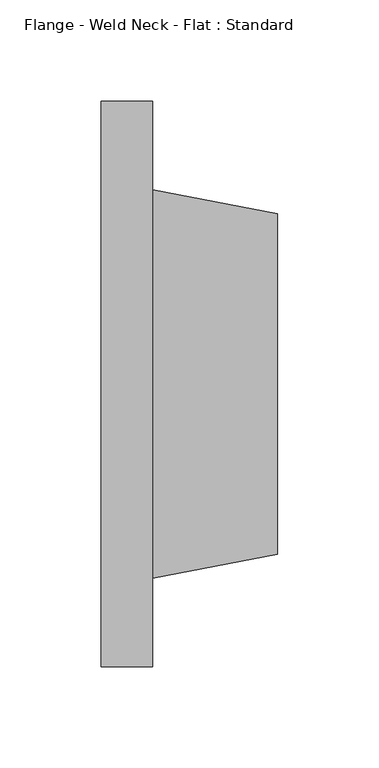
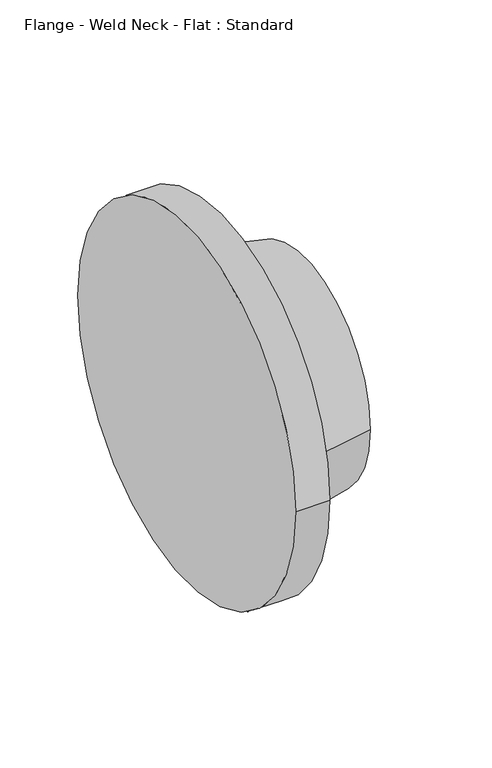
"""IFC4 building model written with IfcOpenShell, lengths in millimetres: valve geometry, Flange - Weld Neck - Flat : Standard."""

from ifc_helpers import new_model, si_unit, frame, origin, place, context, project, spatial, polyline, circle_curve, source, transform, mapped, element, save
from ifc_brep_helpers import plane_surface, cylinder_surface, revolved_surface, advanced_brep


def flange_weld_neck_flat_standard_9d6f3f5d(model_context):
    return source(origin(), model_context, "Body", "AdvancedBrep", [
        advanced_brep(
        [(1.5875, -139.7, 0.0), (1.5875, 139.7, 0.0), (26.9875, -139.7, 0.0), (26.9875, 139.7, 0.0), (26.9875, 96.04375, 0.0), (26.9875, -96.04375, 0.0), (88.9, -84.201, 0.0), (88.9, 84.201, 0.0)],
        [
            (0, 1, circle_curve(frame((1.5875, 0.0, 0.0), z_axis=(-1.0, 0.0, 0.0), x_axis=(0.0, 1.0, 0.0)), 139.7)),
            (1, 0, circle_curve(frame((1.5875, 0.0, 0.0), z_axis=(-1.0, 0.0, 0.0), x_axis=(0.0, 1.0, 0.0)), 139.7)),
            (2, 3, circle_curve(frame((26.9875, 0.0, 0.0), z_axis=(1.0, 0.0, 0.0), x_axis=(0.0, 1.0, 0.0)), 139.7)),
            (3, 2, circle_curve(frame((26.9875, 0.0, 0.0), z_axis=(1.0, 0.0, 0.0), x_axis=(0.0, 1.0, 0.0)), 139.7)),
            (4, 5, circle_curve(frame((26.9875, 0.0, 0.0), z_axis=(-1.0, 0.0, 0.0), x_axis=(0.0, -1.0, 0.0)), 96.04375)),
            (5, 4, circle_curve(frame((26.9875, 0.0, 0.0), z_axis=(-1.0, 0.0, 0.0), x_axis=(0.0, 1.0, 0.0)), 96.04375)),
            (0, 2),
            (3, 1),
            (6, 7, circle_curve(frame((88.9, 0.0, 0.0), z_axis=(1.0, 0.0, 0.0), x_axis=(0.0, -1.0, 0.0)), 84.201)),
            (7, 6, circle_curve(frame((88.9, 0.0, 0.0), z_axis=(1.0, 0.0, 0.0), x_axis=(0.0, 1.0, 0.0)), 84.201)),
            (6, 5),
            (4, 7),
        ],
        [
            plane_surface(frame((1.5875, 0.0, 0.0), z_axis=(-1.0, 0.0, 0.0), x_axis=(0.0, 0.0, 1.0))),
            plane_surface(frame((26.9875, 0.0, 0.0), z_axis=(1.0, 0.0, 0.0), x_axis=(0.0, 0.0, 1.0))),
            cylinder_surface(frame((1.5875, 0.0, 0.0), z_axis=(-1.0, 0.0, 0.0), x_axis=(0.0, 1.0, 0.0)), 139.7),
            plane_surface(frame((88.9, 0.0, 0.0), z_axis=(1.0, 0.0, 0.0), x_axis=(0.0, 0.0, -1.0))),
            revolved_surface(polyline([(88.89999999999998, -84.20099999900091, 0.0), (26.98750000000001, -96.04375, 0.0)]), (529.0928954, 0.0, 0.0), (-1.0, 0.0, 0.0)),
            revolved_surface(polyline([(88.89999999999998, 84.20099999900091, 0.0), (26.98750000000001, 96.04375, 0.0)]), (529.0928954, 0.0, 0.0), (-1.0, 0.0, 0.0)),
        ],
        [
            (0, [[1, 2]]),
            (1, [[3, 4], [5, 6]]),
            (2, [[-1, 7, -4, 8]]),
            (2, [[-2, -8, -3, -7]]),
            (3, [[9, 10]]),
            (4, [[-9, 11, -5, 12]]),
            (5, [[-10, -12, -6, -11]]),
        ],
    ),
    ])


if __name__ == "__main__":
    model = new_model("IFC4")
    model_context = context("Model", 3, world=origin())
    ifc_project = project(units=[si_unit("LENGTHUNIT", "METRE", prefix="MILLI")], contexts=[model_context])
    site = spatial("IfcSite", under=ifc_project)
    building = spatial("IfcBuilding", under=site)
    placement = place(None, origin())
    flange_weld_neck_flat_standard_shape = flange_weld_neck_flat_standard_9d6f3f5d(model_context)
    element("IfcValve", 1, ObjectType="Flange - Weld Neck - Flat : Standard", at=placement, inside=building, context=model_context, shape_type="MappedRepresentation", body=[
        mapped(flange_weld_neck_flat_standard_shape, transform((0.0, 0.0, 0.0), x_axis=(1.0, 0.0, 0.0), y_axis=(0.0, 1.0, 0.0), z_axis=(0.0, 0.0, 1.0))),
    ])
    save(model, "model.ifc")
